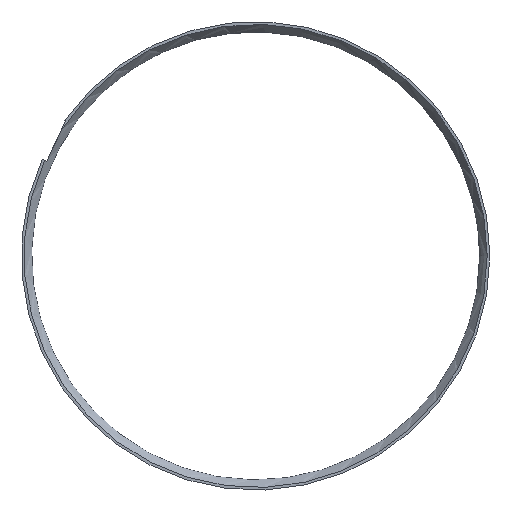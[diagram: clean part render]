
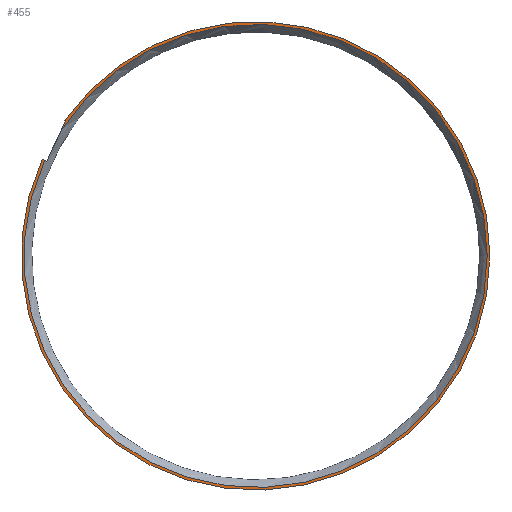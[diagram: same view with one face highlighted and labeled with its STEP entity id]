
A CAD part, top view. The second image highlights one B-rep face of the part: STEP entity #455.
In plain terms, the highlighted planar face has unit normal (0, 0, 1).
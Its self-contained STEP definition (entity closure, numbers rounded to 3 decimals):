
#199 = VERTEX_POINT('',#200);
#200 = CARTESIAN_POINT('',(10.42,0.,5.1));
#206 = EDGE_CURVE('',#207,#199,#209,.T.);
#207 = VERTEX_POINT('',#208);
#208 = CARTESIAN_POINT('',(-9.491,4.3,5.1));
#209 = CIRCLE('',#210,10.42);
#210 = AXIS2_PLACEMENT_3D('',#211,#212,#213);
#211 = CARTESIAN_POINT('',(0.,0.,5.1));
#212 = DIRECTION('',(0.,0.,1.));
#213 = DIRECTION('',(1.,0.,0.));
#248 = VERTEX_POINT('',#249);
#249 = CARTESIAN_POINT('',(-8.491,6.04,5.1));
#257 = EDGE_CURVE('',#199,#248,#258,.T.);
#258 = CIRCLE('',#259,10.42);
#259 = AXIS2_PLACEMENT_3D('',#260,#261,#262);
#260 = CARTESIAN_POINT('',(0.,0.,5.1));
#261 = DIRECTION('',(0.,0.,1.));
#262 = DIRECTION('',(1.,0.,0.));
#455 = ADVANCED_FACE('',(#456),#500,.T.);
#456 = FACE_BOUND('',#457,.T.);
#457 = EDGE_LOOP('',(#458,#466,#467,#468,#476,#484,#493));
#458 = ORIENTED_EDGE('',*,*,#459,.T.);
#459 = EDGE_CURVE('',#460,#207,#462,.T.);
#460 = VERTEX_POINT('',#461);
#461 = CARTESIAN_POINT('',(-9.383,4.249,5.1));
#462 = LINE('',#463,#464);
#463 = CARTESIAN_POINT('',(-9.293,4.207,5.1));
#464 = VECTOR('',#465,1.);
#465 = DIRECTION('',(-0.905,0.426,0.));
#466 = ORIENTED_EDGE('',*,*,#206,.T.);
#467 = ORIENTED_EDGE('',*,*,#257,.T.);
#468 = ORIENTED_EDGE('',*,*,#469,.F.);
#469 = EDGE_CURVE('',#470,#248,#472,.T.);
#470 = VERTEX_POINT('',#471);
#471 = CARTESIAN_POINT('',(-8.442,6.017,5.1));
#472 = LINE('',#473,#474);
#473 = CARTESIAN_POINT('',(-8.442,6.017,5.1));
#474 = VECTOR('',#475,1.);
#475 = DIRECTION('',(-0.905,0.426,0.));
#476 = ORIENTED_EDGE('',*,*,#477,.T.);
#477 = EDGE_CURVE('',#470,#478,#480,.T.);
#478 = VERTEX_POINT('',#479);
#479 = CARTESIAN_POINT('',(-8.62,5.638,5.1));
#480 = LINE('',#481,#482);
#481 = CARTESIAN_POINT('',(-8.442,6.017,5.1));
#482 = VECTOR('',#483,1.);
#483 = DIRECTION('',(-0.426,-0.905,0.));
#484 = ORIENTED_EDGE('',*,*,#485,.F.);
#485 = EDGE_CURVE('',#486,#478,#488,.T.);
#486 = VERTEX_POINT('',#487);
#487 = CARTESIAN_POINT('',(10.3,0.,5.1));
#488 = CIRCLE('',#489,10.3);
#489 = AXIS2_PLACEMENT_3D('',#490,#491,#492);
#490 = CARTESIAN_POINT('',(0.,0.,5.1));
#491 = DIRECTION('',(0.,0.,1.));
#492 = DIRECTION('',(1.,0.,0.));
#493 = ORIENTED_EDGE('',*,*,#494,.F.);
#494 = EDGE_CURVE('',#460,#486,#495,.T.);
#495 = CIRCLE('',#496,10.3);
#496 = AXIS2_PLACEMENT_3D('',#497,#498,#499);
#497 = CARTESIAN_POINT('',(0.,0.,5.1));
#498 = DIRECTION('',(0.,0.,1.));
#499 = DIRECTION('',(1.,0.,0.));
#500 = PLANE('',#501);
#501 = AXIS2_PLACEMENT_3D('',#502,#503,#504);
#502 = CARTESIAN_POINT('',(0.,0.,5.1));
#503 = DIRECTION('',(0.,0.,1.));
#504 = DIRECTION('',(1.,0.,0.));
